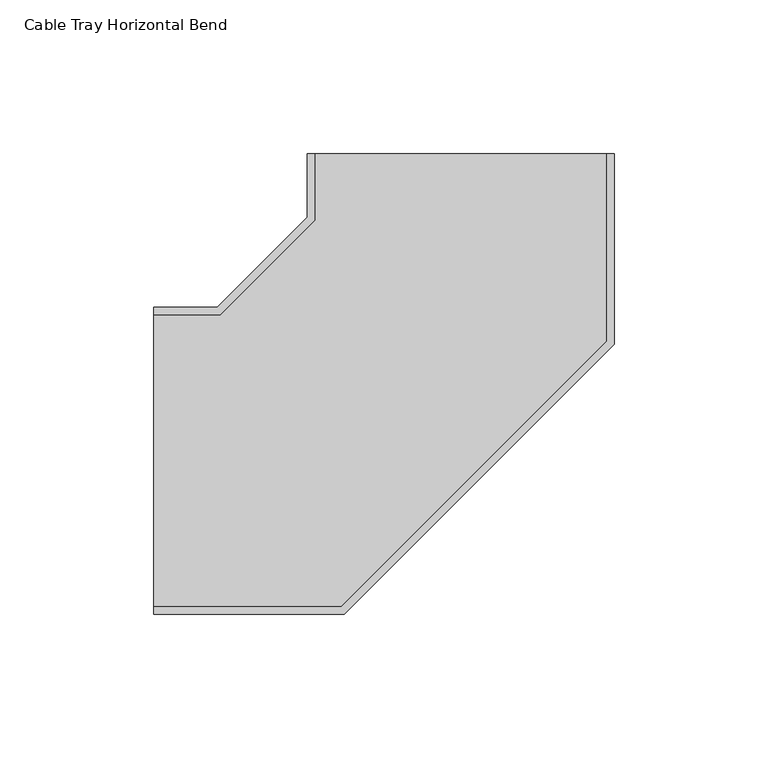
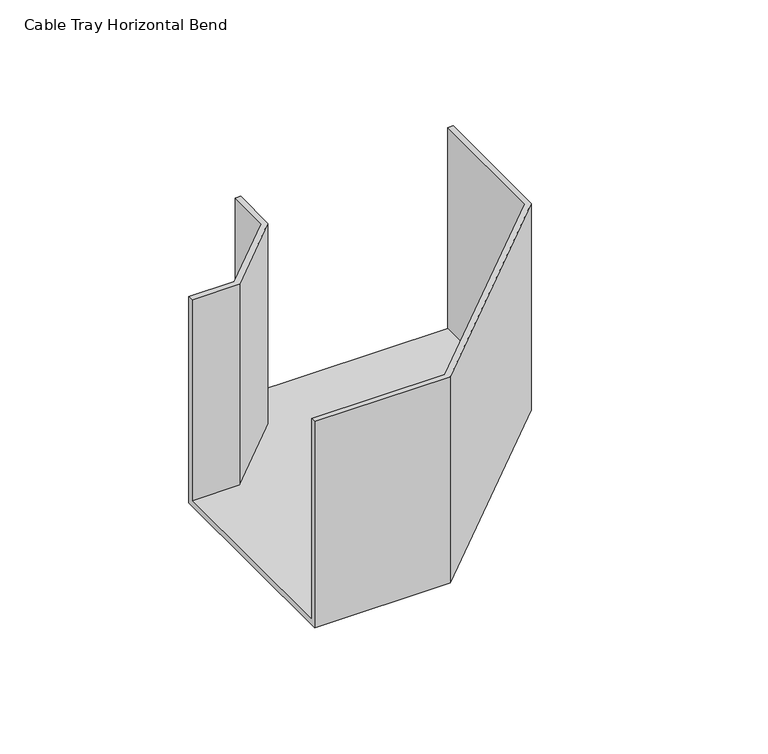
"""IFC4 building model written with IfcOpenShell, lengths in millimetres: cable carrier fitting geometry, Cable Tray Horizontal Bend : ELEC_ELV_TKG_N2402."""

from ifc_helpers import new_model, si_unit, origin, place, context, project, spatial, faceted_brep, source, transform, mapped, element, save


def cable_tray_horizontal_bend_c1312258(model_context):
    return source(origin(), model_context, "Body", "Brep", [
        faceted_brep([(-100.0, -50.0, -50.0), (-100.0, -50.0, 50.0), (-100.0, -47.46, 50.0), (-100.0, -47.46, -47.46), (-100.0, 47.46, -47.46), (-100.0, 47.46, 50.0), (-100.0, 50.0, 50.0), (-100.0, 50.0, -50.0), (50.0, 100.0, -50.0), (-50.0, 100.0, -50.0), (-50.0, 100.0, 50.0), (-47.46, 100.0, 50.0), (-47.46, 100.0, -47.46), (47.46, 100.0, -47.46), (47.46, 100.0, 50.0), (50.0, 100.0, 50.0), (-37.8679656, -50.0, -50.0), (-37.8679656, -50.0, 50.0), (50.0, 37.8679656, 50.0), (47.46, 38.9200681, 50.0), (-38.9200681, -47.46, 50.0), (-38.9200681, -47.46, -47.46), (47.46, 38.9200681, -47.46), (-47.46, 78.2372194, -47.46), (-78.2372194, 47.46, -47.46), (-78.2372194, 47.46, 50.0), (-47.46, 78.2372194, 50.0), (-50.0, 79.2893219, 50.0), (-79.2893219, 50.0, 50.0), (-79.2893219, 50.0, -50.0), (-50.0, 79.2893219, -50.0), (50.0, 37.8679656, -50.0)], [[[0, 1, 2, 3, 4, 5, 6, 7]], [[8, 9, 10, 11, 12, 13, 14, 15]], [[1, 0, 16, 17]], [[2, 1, 17, 18, 15, 14, 19, 20]], [[3, 2, 20, 21]], [[4, 3, 21, 22, 13, 12, 23, 24]], [[5, 4, 24, 25]], [[6, 5, 25, 26, 11, 10, 27, 28]], [[7, 6, 28, 29]], [[0, 7, 29, 30, 9, 8, 31, 16]], [[17, 16, 31, 18]], [[21, 20, 19, 22]], [[25, 24, 23, 26]], [[29, 28, 27, 30]], [[18, 31, 8, 15]], [[22, 19, 14, 13]], [[26, 23, 12, 11]], [[30, 27, 10, 9]]]),
    ])


if __name__ == "__main__":
    model = new_model("IFC4")
    model_context = context("Model", 3, world=origin())
    ifc_project = project(units=[si_unit("LENGTHUNIT", "METRE", prefix="MILLI")], contexts=[model_context])
    site = spatial("IfcSite", under=ifc_project)
    building = spatial("IfcBuilding", under=site)
    placement = place(None, origin())
    cable_tray_horizontal_bend_shape = cable_tray_horizontal_bend_c1312258(model_context)
    element("IfcCableCarrierFitting", 1, ObjectType="Cable Tray Horizontal Bend : ELEC_ELV_TKG_N2402", at=placement, inside=building, context=model_context, shape_type="MappedRepresentation", body=[
        mapped(cable_tray_horizontal_bend_shape, transform((0.0, 0.0, 0.0), x_axis=(1.0, 0.0, 0.0), y_axis=(0.0, 1.0, 0.0), z_axis=(0.0, 0.0, 1.0))),
    ])
    save(model, "model.ifc")
